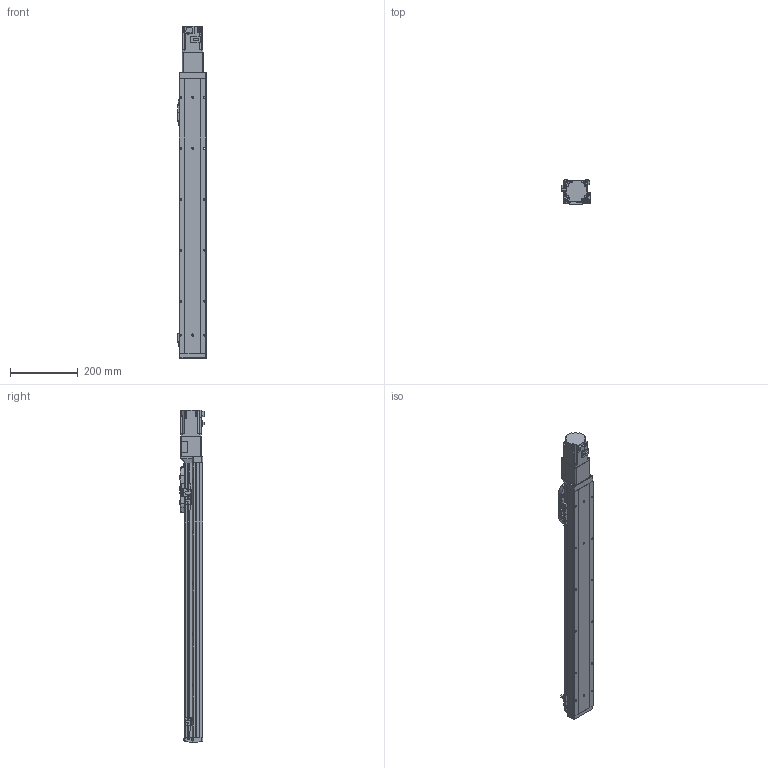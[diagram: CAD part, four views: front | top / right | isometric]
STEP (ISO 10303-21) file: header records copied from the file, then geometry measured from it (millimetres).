
FILE_DESCRIPTION (( 'STEP AP214' ), '1' );
FILE_NAME ('GSH8-650-BC-M20-1.step', '2025-01-07T06:04:09', ( '' ), ( '' ), 'SwSTEP 2.0', 'SolidWorks 2012', '' );
FILE_SCHEMA (( 'AUTOMOTIVE_DESIGN' ));
Length unit declared in the file: millimetre
Products named in the file (4): HG-KR23_200W_Motor; GSH8-BC-011-650-M20; GSH8-650-BC-M20-1; GSH8-GY-004
Assembly tree (3 placements, depth 2):
  GSH8-650-BC-M20-1
    GSH8-BC-011-650-M20
    GSH8-GY-004
    HG-KR23_200W_Motor
Bounding box: 84 x 71.3 x 977.6 mm (x, y, z)
Volume: 1986739.9 mm3; surface area: 528568.2 mm2
Topology: 3 solids, 7 shells, 1135 faces, 3008 edges, 1938 vertices
Faces by surface type: plane 652, cylinder 391, torus 38, cone 26, bspline 24, sphere 4
Entity records: 45746 total; most frequent: CARTESIAN_POINT 11285, DIRECTION 6092, ORIENTED_EDGE 6000, EDGE_CURVE 3000, AXIS2_PLACEMENT_3D 2045, VECTOR 2002, LINE 2002, VERTEX_POINT 1934
